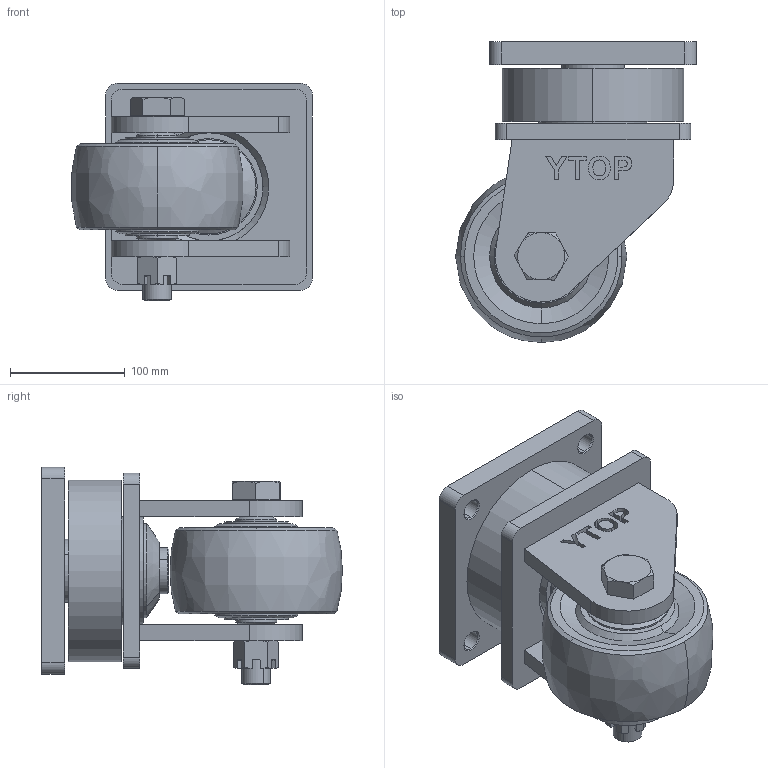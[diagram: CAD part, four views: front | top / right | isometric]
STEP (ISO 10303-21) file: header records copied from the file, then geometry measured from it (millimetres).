
FILE_DESCRIPTION (( 'STEP AP214' ), '1' );
FILE_NAME ('26-150H-75-MC.STEP', '2022-08-20T04:12:09', ( '' ), ( '' ), 'SwSTEP 2.0', 'SolidWorks 2016', '' );
FILE_SCHEMA (( 'AUTOMOTIVE_DESIGN' ));
Length unit declared in the file: millimetre
Products named in the file (1): 26-150H-75-MC
Bounding box: 209.47 x 261.75 x 189 mm (x, y, z)
Volume: 3845133.6 mm3; surface area: 431144.1 mm2
Topology: 10 solids, 10 shells, 348 faces, 853 edges, 553 vertices
Faces by surface type: plane 151, cylinder 82, cone 77, bspline 38
Entity records: 15556 total; most frequent: CARTESIAN_POINT 4480, ORIENTED_EDGE 1706, DIRECTION 1611, EDGE_CURVE 853, AXIS2_PLACEMENT_3D 574, VERTEX_POINT 553, LINE 463, VECTOR 463
